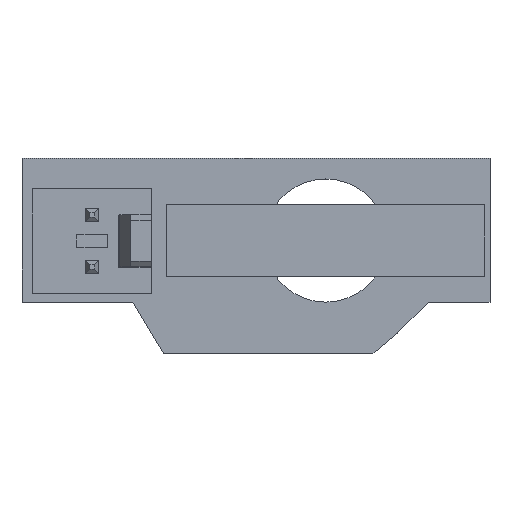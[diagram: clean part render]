
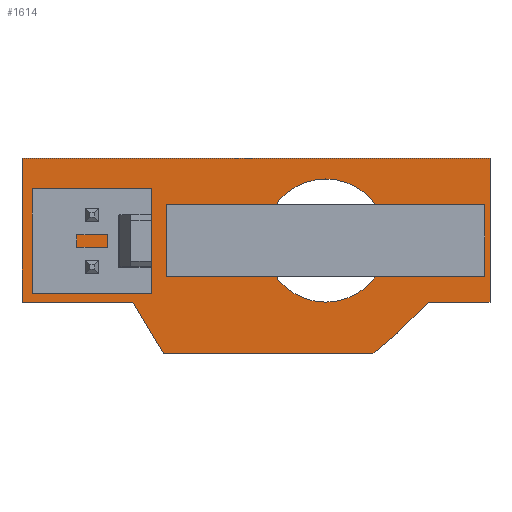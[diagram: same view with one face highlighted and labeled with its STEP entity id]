
A CAD part, top view. The second image highlights one B-rep face of the part: STEP entity #1614.
In plain terms, the highlighted planar face has unit normal (0, 0, 1).
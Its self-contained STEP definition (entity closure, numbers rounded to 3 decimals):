
#44=CIRCLE('',#1723,0.525);
#46=CIRCLE('',#1726,1.);
#48=CIRCLE('',#1729,1.);
#50=CIRCLE('',#1732,0.525);
#51=CIRCLE('',#1734,3.);
#59=FACE_BOUND('',#248,.T.);
#60=FACE_BOUND('',#249,.T.);
#61=FACE_BOUND('',#250,.T.);
#62=FACE_BOUND('',#251,.T.);
#63=FACE_BOUND('',#252,.T.);
#154=FACE_OUTER_BOUND('',#247,.T.);
#247=EDGE_LOOP('',(#1420,#1421,#1422,#1423,#1424,#1425,#1426,#1427,#1428));
#248=EDGE_LOOP('',(#1429));
#249=EDGE_LOOP('',(#1430));
#250=EDGE_LOOP('',(#1431));
#251=EDGE_LOOP('',(#1432));
#252=EDGE_LOOP('',(#1433));
#437=LINE('',#2560,#640);
#440=LINE('',#2566,#643);
#443=LINE('',#2572,#646);
#446=LINE('',#2578,#649);
#449=LINE('',#2584,#652);
#452=LINE('',#2590,#655);
#455=LINE('',#2596,#658);
#458=LINE('',#2602,#661);
#461=LINE('',#2606,#664);
#640=VECTOR('',#2116,10.);
#643=VECTOR('',#2121,10.);
#646=VECTOR('',#2126,10.);
#649=VECTOR('',#2131,10.);
#652=VECTOR('',#2136,10.);
#655=VECTOR('',#2141,10.);
#658=VECTOR('',#2146,10.);
#661=VECTOR('',#2151,10.);
#664=VECTOR('',#2156,10.);
#776=VERTEX_POINT('',#2526);
#778=VERTEX_POINT('',#2532);
#780=VERTEX_POINT('',#2538);
#782=VERTEX_POINT('',#2544);
#783=VERTEX_POINT('',#2548);
#787=VERTEX_POINT('',#2557);
#788=VERTEX_POINT('',#2559);
#790=VERTEX_POINT('',#2565);
#792=VERTEX_POINT('',#2571);
#794=VERTEX_POINT('',#2577);
#796=VERTEX_POINT('',#2583);
#798=VERTEX_POINT('',#2589);
#800=VERTEX_POINT('',#2595);
#802=VERTEX_POINT('',#2601);
#978=EDGE_CURVE('',#776,#776,#44,.T.);
#981=EDGE_CURVE('',#778,#778,#46,.T.);
#984=EDGE_CURVE('',#780,#780,#48,.T.);
#987=EDGE_CURVE('',#782,#782,#50,.T.);
#988=EDGE_CURVE('',#783,#783,#51,.T.);
#993=EDGE_CURVE('',#788,#787,#437,.T.);
#996=EDGE_CURVE('',#790,#788,#440,.T.);
#999=EDGE_CURVE('',#792,#790,#443,.T.);
#1002=EDGE_CURVE('',#794,#792,#446,.T.);
#1005=EDGE_CURVE('',#796,#794,#449,.T.);
#1008=EDGE_CURVE('',#798,#796,#452,.T.);
#1011=EDGE_CURVE('',#800,#798,#455,.T.);
#1014=EDGE_CURVE('',#802,#800,#458,.T.);
#1017=EDGE_CURVE('',#787,#802,#461,.T.);
#1420=ORIENTED_EDGE('',*,*,#1017,.T.);
#1421=ORIENTED_EDGE('',*,*,#1014,.T.);
#1422=ORIENTED_EDGE('',*,*,#1011,.T.);
#1423=ORIENTED_EDGE('',*,*,#1008,.T.);
#1424=ORIENTED_EDGE('',*,*,#1005,.T.);
#1425=ORIENTED_EDGE('',*,*,#1002,.T.);
#1426=ORIENTED_EDGE('',*,*,#999,.T.);
#1427=ORIENTED_EDGE('',*,*,#996,.T.);
#1428=ORIENTED_EDGE('',*,*,#993,.T.);
#1429=ORIENTED_EDGE('',*,*,#978,.T.);
#1430=ORIENTED_EDGE('',*,*,#981,.T.);
#1431=ORIENTED_EDGE('',*,*,#984,.T.);
#1432=ORIENTED_EDGE('',*,*,#987,.T.);
#1433=ORIENTED_EDGE('',*,*,#988,.T.);
#1527=PLANE('',#1745);
#1614=ADVANCED_FACE('',(#154,#59,#60,#61,#62,#63),#1527,.T.);
#1723=AXIS2_PLACEMENT_3D('',#2528,#2082,#2083);
#1726=AXIS2_PLACEMENT_3D('',#2534,#2089,#2090);
#1729=AXIS2_PLACEMENT_3D('',#2540,#2096,#2097);
#1732=AXIS2_PLACEMENT_3D('',#2546,#2103,#2104);
#1734=AXIS2_PLACEMENT_3D('',#2549,#2107,#2108);
#1745=AXIS2_PLACEMENT_3D('',#2607,#2157,#2158);
#2082=DIRECTION('center_axis',(0.,0.,-1.));
#2083=DIRECTION('ref_axis',(1.,0.,0.));
#2089=DIRECTION('center_axis',(0.,0.,-1.));
#2090=DIRECTION('ref_axis',(1.,0.,0.));
#2096=DIRECTION('center_axis',(0.,0.,-1.));
#2097=DIRECTION('ref_axis',(1.,0.,0.));
#2103=DIRECTION('center_axis',(0.,0.,-1.));
#2104=DIRECTION('ref_axis',(1.,0.,0.));
#2107=DIRECTION('center_axis',(0.,0.,-1.));
#2108=DIRECTION('ref_axis',(1.,0.,0.));
#2116=DIRECTION('',(-1.,0.,0.));
#2121=DIRECTION('',(0.,1.,0.));
#2126=DIRECTION('',(1.,0.,0.));
#2131=DIRECTION('',(0.707,0.707,0.));
#2136=DIRECTION('',(0.768,0.64,0.));
#2141=DIRECTION('',(1.,0.,0.));
#2146=DIRECTION('',(0.514,-0.857,0.));
#2151=DIRECTION('',(1.,0.,0.));
#2156=DIRECTION('',(0.,-1.,0.));
#2157=DIRECTION('center_axis',(0.,0.,1.));
#2158=DIRECTION('ref_axis',(1.,0.,0.));
#2526=CARTESIAN_POINT('',(5.075,8.73,1.5));
#2528=CARTESIAN_POINT('Origin',(5.6,8.73,1.5));
#2532=CARTESIAN_POINT('',(10.,10.,1.5));
#2534=CARTESIAN_POINT('Origin',(11.,10.,1.5));
#2538=CARTESIAN_POINT('',(22.,10.,1.5));
#2540=CARTESIAN_POINT('Origin',(23.,10.,1.5));
#2544=CARTESIAN_POINT('',(5.075,11.27,1.5));
#2546=CARTESIAN_POINT('Origin',(5.6,11.27,1.5));
#2548=CARTESIAN_POINT('',(14.,10.,1.5));
#2549=CARTESIAN_POINT('Origin',(17.,10.,1.5));
#2557=CARTESIAN_POINT('',(2.2,14.,1.5));
#2559=CARTESIAN_POINT('',(25.,14.,1.5));
#2560=CARTESIAN_POINT('',(25.,14.,1.5));
#2565=CARTESIAN_POINT('',(25.,7.,1.5));
#2566=CARTESIAN_POINT('',(25.,7.,1.5));
#2571=CARTESIAN_POINT('',(22.,7.,1.5));
#2572=CARTESIAN_POINT('',(22.,7.,1.5));
#2577=CARTESIAN_POINT('',(20.5,5.5,1.5));
#2578=CARTESIAN_POINT('',(20.5,5.5,1.5));
#2583=CARTESIAN_POINT('',(19.3,4.5,1.5));
#2584=CARTESIAN_POINT('',(19.3,4.5,1.5));
#2589=CARTESIAN_POINT('',(9.1,4.5,1.5));
#2590=CARTESIAN_POINT('',(9.1,4.5,1.5));
#2595=CARTESIAN_POINT('',(7.6,7.,1.5));
#2596=CARTESIAN_POINT('',(7.6,7.,1.5));
#2601=CARTESIAN_POINT('',(2.2,7.,1.5));
#2602=CARTESIAN_POINT('',(2.2,7.,1.5));
#2606=CARTESIAN_POINT('',(2.2,14.,1.5));
#2607=CARTESIAN_POINT('Origin',(13.6,9.25,1.5));
